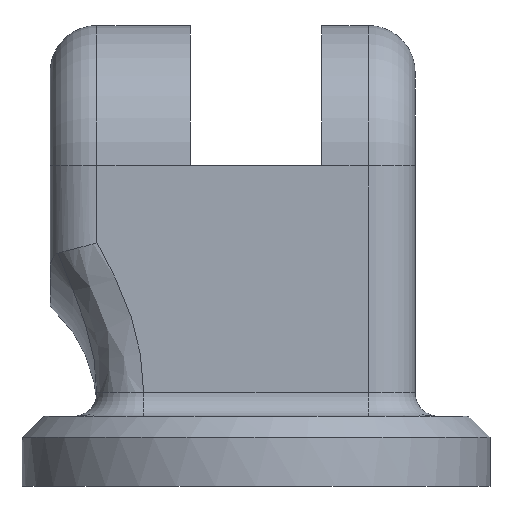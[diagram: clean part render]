
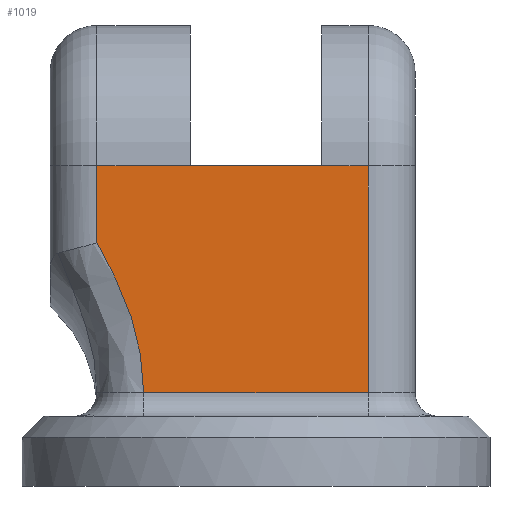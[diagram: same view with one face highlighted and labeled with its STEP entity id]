
A CAD part, front view. The second image highlights one B-rep face of the part: STEP entity #1019.
In plain terms, the highlighted planar face has unit normal (0, -1, 0).
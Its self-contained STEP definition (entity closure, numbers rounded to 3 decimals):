
#61=PLANE('',#1124);
#68=LINE('',#1519,#151);
#81=LINE('',#1596,#164);
#83=LINE('',#1629,#166);
#92=LINE('',#1762,#175);
#121=LINE('',#1826,#204);
#123=LINE('',#1830,#206);
#139=LINE('',#1868,#222);
#151=VECTOR('',#1179,10.);
#164=VECTOR('',#1252,10.);
#166=VECTOR('',#1256,10.);
#175=VECTOR('',#1283,10.);
#204=VECTOR('',#1336,10.);
#206=VECTOR('',#1342,10.);
#222=VECTOR('',#1382,10.);
#301=FACE_OUTER_BOUND('',#370,.T.);
#370=EDGE_LOOP('',(#944,#945,#946,#947,#948,#949,#950,#951));
#431=B_SPLINE_CURVE_WITH_KNOTS('',3,(#1669,#1670,#1671,#1672,#1673,#1674),
 .UNSPECIFIED.,.F.,.F.,(4,1,1,4),(-0.815,-0.507,
-0.301,-0.138),.UNSPECIFIED.);
#454=VERTEX_POINT('',#1511);
#456=VERTEX_POINT('',#1517);
#473=VERTEX_POINT('',#1591);
#474=VERTEX_POINT('',#1595);
#477=VERTEX_POINT('',#1628);
#487=VERTEX_POINT('',#1760);
#508=VERTEX_POINT('',#1818);
#510=VERTEX_POINT('',#1824);
#552=EDGE_CURVE('',#456,#454,#68,.T.);
#584=EDGE_CURVE('',#474,#473,#81,.T.);
#588=EDGE_CURVE('',#454,#477,#83,.T.);
#592=EDGE_CURVE('',#477,#474,#431,.T.);
#606=EDGE_CURVE('',#487,#456,#92,.T.);
#638=EDGE_CURVE('',#510,#508,#121,.T.);
#640=EDGE_CURVE('',#508,#487,#123,.T.);
#659=EDGE_CURVE('',#473,#510,#139,.T.);
#944=ORIENTED_EDGE('',*,*,#552,.F.);
#945=ORIENTED_EDGE('',*,*,#606,.F.);
#946=ORIENTED_EDGE('',*,*,#640,.F.);
#947=ORIENTED_EDGE('',*,*,#638,.F.);
#948=ORIENTED_EDGE('',*,*,#659,.F.);
#949=ORIENTED_EDGE('',*,*,#584,.F.);
#950=ORIENTED_EDGE('',*,*,#592,.F.);
#951=ORIENTED_EDGE('',*,*,#588,.F.);
#1019=ADVANCED_FACE('',(#301),#61,.T.);
#1124=AXIS2_PLACEMENT_3D('',#1892,#1413,#1414);
#1179=DIRECTION('',(-1.,0.,0.));
#1252=DIRECTION('',(0.,0.,1.));
#1256=DIRECTION('',(0.,0.,1.));
#1283=DIRECTION('',(0.,0.,-1.));
#1336=DIRECTION('',(1.,0.,0.));
#1342=DIRECTION('',(1.,0.,0.));
#1382=DIRECTION('',(1.,0.,0.));
#1413=DIRECTION('center_axis',(0.,-1.,0.));
#1414=DIRECTION('ref_axis',(1.,0.,0.));
#1511=CARTESIAN_POINT('',(-4.8,-6.,4.));
#1517=CARTESIAN_POINT('',(4.8,-6.,4.));
#1519=CARTESIAN_POINT('',(1.4,-6.,4.));
#1591=CARTESIAN_POINT('',(-6.8,-6.,13.7));
#1595=CARTESIAN_POINT('',(-6.8,-6.,10.408));
#1596=CARTESIAN_POINT('',(-6.8,-6.,8.35));
#1628=CARTESIAN_POINT('',(-4.8,-6.,4.022));
#1629=CARTESIAN_POINT('',(-4.8,-6.,3.));
#1669=CARTESIAN_POINT('Ctrl Pts',(-4.8,-6.,4.022));
#1670=CARTESIAN_POINT('Ctrl Pts',(-4.8,-6.,5.051));
#1671=CARTESIAN_POINT('Ctrl Pts',(-5.089,-6.,6.762));
#1672=CARTESIAN_POINT('Ctrl Pts',(-5.948,-6.,8.856));
#1673=CARTESIAN_POINT('Ctrl Pts',(-6.536,-6.,9.935));
#1674=CARTESIAN_POINT('Ctrl Pts',(-6.8,-6.,10.408));
#1760=CARTESIAN_POINT('',(4.8,-6.,13.7));
#1762=CARTESIAN_POINT('',(4.8,-6.,3.));
#1818=CARTESIAN_POINT('',(2.8,-6.,13.7));
#1824=CARTESIAN_POINT('',(-2.8,-6.,13.7));
#1826=CARTESIAN_POINT('',(-2.8,-6.,13.7));
#1830=CARTESIAN_POINT('',(3.8,-6.,13.7));
#1868=CARTESIAN_POINT('',(-5.8,-6.,13.7));
#1892=CARTESIAN_POINT('Origin',(2.8,-6.,3.));
